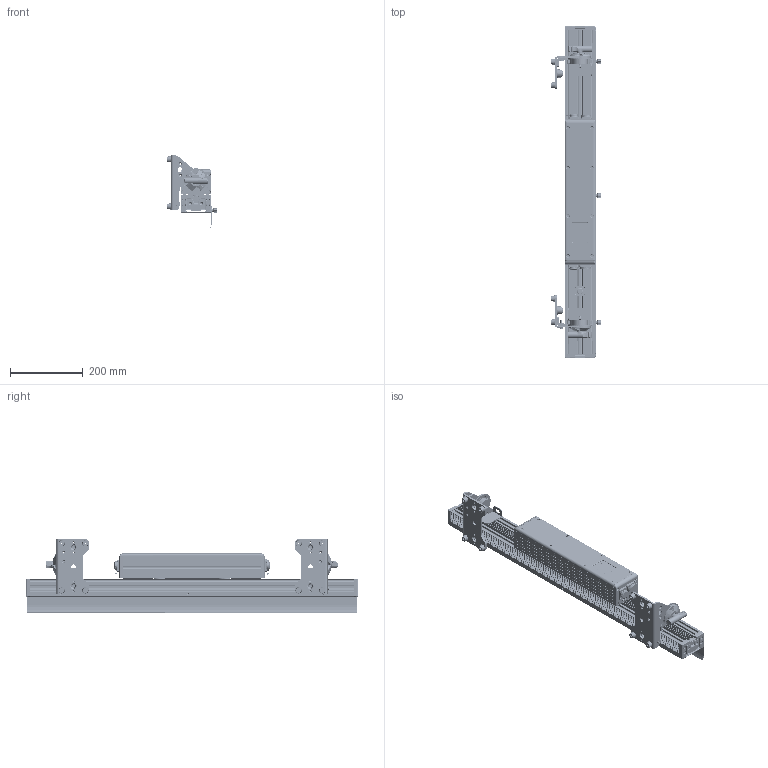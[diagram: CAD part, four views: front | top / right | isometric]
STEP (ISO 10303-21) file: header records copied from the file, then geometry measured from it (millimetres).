
FILE_DESCRIPTION((''),'2;1');
FILE_NAME('ZJ-L21301-ADJ-028-00_ASM','2019-03-26T',('KF009'),(''),'PRO/ENGINEER BY PARAMETRIC TECHNOLOGY CORPORATION, 2010280','PRO/ENGINEER BY PARAMETRIC TECHNOLOGY CORPORATION, 2010280','');
FILE_SCHEMA(('CONFIG_CONTROL_DESIGN'));
Products named in the file (81): LJ-L21301-01; LJ-L21301-02; LJ-L21301-32; LJ-L21301-33; LVJIBAN; 3734TJ-00-005; 3734TJ-00-007; LJ-L21301-14; 3_ASM; LJ-L21301-03; LJ-L20901-14; LJ-L20901-15; LJZJ-00_ASM; A-TQF-0001; LJ-L21301-09; LJ-L21301-10; LJ-L21301-11; LJ-L21301-16; BT-M4-12; LJ-Y31202-40; ZJ-L21301-01-01_ASM; LJ-L21301-12; LJ-L21301-13; ZJ-L21301-01-00_ASM; B-KG-0024; LJ-L21301-23; LJ-L21301-04; ZJ-L21301-02-01_ASM; LJ-L21301-05; Y32001-00-13; Y32001-00-14; 32001-00-12_ASM; Y32001-00-23; Y32001-00-24; Y32001-00-22_ASM; LJ-L21301-06; ZJ-L21301-02-02_ASM; QUDONGBAN-XIA-2; ZJ-L21301-02-03_ASM; LJ-L21301-17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
Assembly tree (142 placements, depth 5):
  ZJ-L21301-ADJ-028-00_ASM
    ZJ-L21301-01-00_ASM
      LJ-L21301-01
      LJ-L21301-02  x2
      LJ-L21301-32  x2
      LJ-L21301-33  x2
      3_ASM  x5
        LVJIBAN
        3734TJ-00-005
        3734TJ-00-007
        LJ-L21301-14
      LJ-L21301-03
      LJZJ-00_ASM  x2
        LJ-L20901-14
        LJ-L20901-15
      A-TQF-0001
      ZJ-L21301-01-01_ASM  x2
        LJ-L21301-09
        LJ-L21301-10
        LJ-L21301-11
        LJ-L21301-16
        BT-M4-12
        LJ-Y31202-40
      LJ-L21301-12
      LJ-L21301-13
    ZJ-L21301-02-00_ASM
      ZJ-L21301-02-01_ASM
        B-KG-0024
        LJ-L21301-23
        LJ-L21301-04
      ZJ-L21301-02-02_ASM
        LJ-L21301-05
        32001-00-12_ASM
          Y32001-00-13
          Y32001-00-14
        Y32001-00-22_ASM
          Y32001-00-23
          Y32001-00-24
        LJ-L21301-06
        BT-M4-12  x4
      ZJ-L21301-02-03_ASM  x2
        QUDONGBAN-XIA-2
      ZJ-L21301-02-04_ASM
        LJ-L21301-17
        Y32001-00-08_ASM
          Y32001-00-09
          Y32001-00-10
          Y32001-00-11
        Y32001-00-22_ASM
          Y32001-00-23
          Y32001-00-24
        BT-M4-12  x4
    ZJ-L21301-03-00_ASM
      LJ-L21301-07
      XXP_ASM
        Y32001-00-29_3_05_BZ
        Y32001-00-30_3_05_BZ
        LJ-L21301-19
        Y32001-00-32_3_05_BZ
        PRT0001
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Bounding box: 136 x 915 x 202.55 mm (x, y, z)
Volume: 3384338.6 mm3; surface area: 2134074.8 mm2
Topology: 186 solids, 190 shells, 16316 faces, 40582 edges, 25462 vertices
Faces by surface type: plane 6193, cylinder 5302, bspline 1940, cone 1435, torus 1250, extrusion 104, sphere 92
Entity records: 331257 total; most frequent: CARTESIAN_POINT 121600, ORIENTED_EDGE 43752, DIRECTION 43597, EDGE_CURVE 21876, AXIS2_PLACEMENT_3D 16318, VERTEX_POINT 13629, VECTOR 10961, LINE 10859
